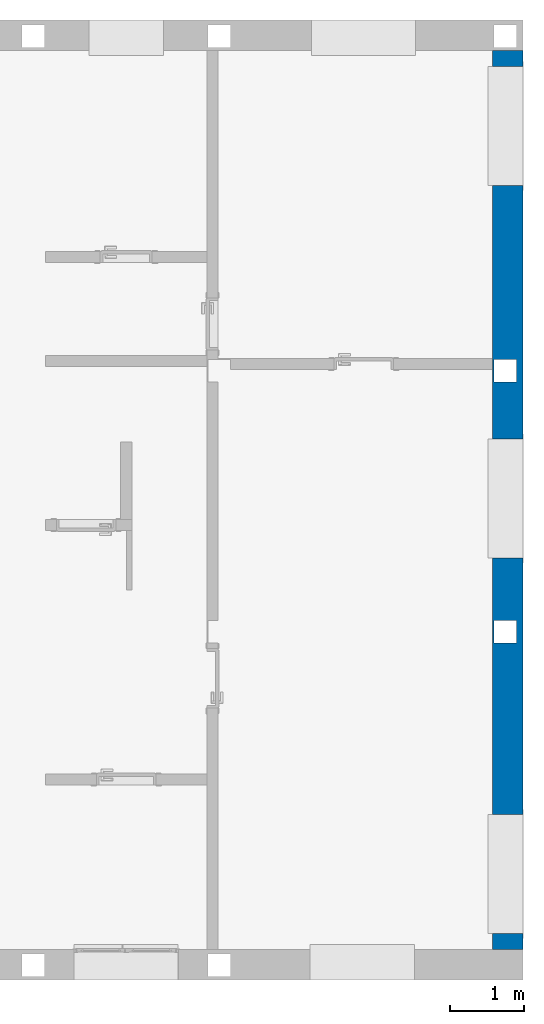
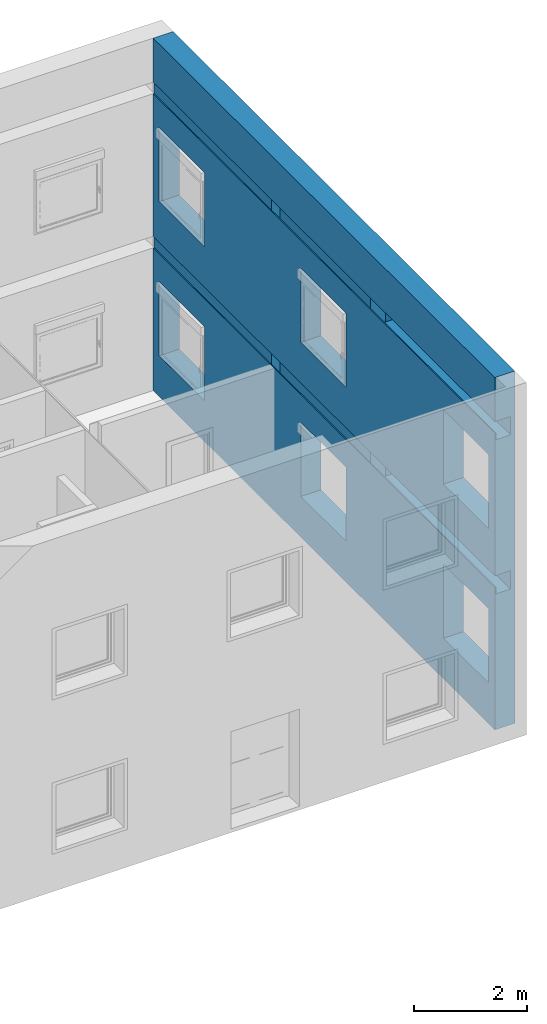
# One storey, part 9 of 11: 1 wall, 6 openings.
"""IFC2X3 building model written with IfcOpenShell, lengths in metres."""

from ifc_helpers import new_model, entity, si_unit, converted_unit, derived_unit, direction, frame, frame_2d, origin, place, context, subcontext, project, spatial, rectangle, extrude, faceted_brep, material, layer, layer_set, type_object, element, save


model = new_model("IFC2X3")

# Units and contexts
model_context = context("Model", 3, precision=1e-05, world=origin(), true_north=direction((6.12303176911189e-17, 1.0)))
context_of_model = context(None, 3, precision=1e-05, world=origin(), true_north=direction((6.12303176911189e-17, 1.0)))
body_context = subcontext(model_context, "Body", "Model", "MODEL_VIEW")
ifc_project = project(units=[si_unit("LENGTHUNIT", "METRE"), si_unit("AREAUNIT", "SQUARE_METRE"), si_unit("VOLUMEUNIT", "CUBIC_METRE"), converted_unit("PLANEANGLEUNIT", "DEGREE", entity("IfcRatioMeasure", 0.0174532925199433), si_unit("PLANEANGLEUNIT", "RADIAN"), dimensions=[0, 0, 0, 0, 0, 0, 0]), si_unit("MASSUNIT", "GRAM", prefix="KILO"), si_unit("TIMEUNIT", "SECOND"), si_unit("FREQUENCYUNIT", "HERTZ"), si_unit("THERMODYNAMICTEMPERATUREUNIT", "DEGREE_CELSIUS"), derived_unit("THERMALTRANSMITTANCEUNIT", [(si_unit("MASSUNIT", "GRAM", prefix="KILO"), 1), (si_unit("THERMODYNAMICTEMPERATUREUNIT", "KELVIN"), -1), (si_unit("TIMEUNIT", "SECOND"), -3)]), derived_unit("VOLUMETRICFLOWRATEUNIT", [(si_unit("LENGTHUNIT", "METRE"), 3), (si_unit("TIMEUNIT", "SECOND"), -1)]), si_unit("ELECTRICCURRENTUNIT", "AMPERE"), si_unit("ELECTRICVOLTAGEUNIT", "VOLT"), si_unit("POWERUNIT", "WATT"), si_unit("FORCEUNIT", "NEWTON", prefix="KILO"), si_unit("ILLUMINANCEUNIT", "LUX"), si_unit("LUMINOUSFLUXUNIT", "LUMEN"), si_unit("LUMINOUSINTENSITYUNIT", "CANDELA"), si_unit("PRESSUREUNIT", "PASCAL")], contexts=[model_context, context_of_model])

# Site, building, storey
site_placement = place(None, origin())
site = spatial("IfcSite", under=ifc_project, at=site_placement, Name="Default", CompositionType="ELEMENT")
building_placement = place(site_placement, origin())
building = spatial("IfcBuilding", under=site, at=building_placement, CompositionType="ELEMENT")
storey_placement = place(building_placement, frame((0.0, 0.0, 0.12)))
storey = spatial("IfcBuildingStorey", under=building, at=storey_placement, Name="01.ES.FORJADO PLANTA BAJA", CompositionType="ELEMENT", Elevation=0.12)

# Wall, openings
ifc_material_1 = material(Name="APL-Enfoscado de mortero de cemento de resistencia muy alta a la filtración (B3)")
ifc_layer_1 = layer(ifc_material_1, 0.015)
ifc_material_2 = material(Name="APL-Pared de obra de fabrica de ladrillo ceramico perforado, de e=11,5cm")
ifc_layer_2 = layer(ifc_material_2, 0.115)
ifc_material_3 = material(Name="APL-Camara de aire no ventilada")
ifc_layer_3 = layer(ifc_material_3, 0.075)
ifc_material_4 = material(Name="APL-Poliestireno expandido elastificado de e=0.037")
ifc_layer_4 = layer(ifc_material_4, 0.12)
ifc_material_5 = material(Name="APL-Tabique de obra de fabrica de ladrillo ceramico hueco doble, de e=7cm")
ifc_layer_5 = layer(ifc_material_5, 0.07)
ifc_material_6 = material(Name="APL-Guarnecido de yeso")
ifc_layer_6 = layer(ifc_material_6, 0.015)
ifc_layer_set = layer_set([ifc_layer_1, ifc_layer_2, ifc_layer_3, ifc_layer_4, ifc_layer_5, ifc_layer_6], Name="Muro básico:F3.2")
wall_type = type_object("IfcWallType", Name="Muro básico:F3.2", PredefinedType="STANDARD", material=ifc_layer_set)
wall_placement = place(storey_placement, frame((15.45, 12.9065177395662, 0.0), z_axis=(0.0, 0.0, 1.0), x_axis=(0.0, -1.0, 0.0)))
wall = element("IfcWall", 1, at=wall_placement, inside=storey, type_object=wall_type, Name="Muro básico:F3.2", ObjectType="Muro básico:F3.2", context=body_context, shape_type="Brep", body=[
    faceted_brep([(0.0, -0.204999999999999, 0.0), (4.14151773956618, -0.204999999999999, 0.0), (4.29151773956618, -0.204999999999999, 0.0), (12.0915177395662, -0.204999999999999, 0.0), (12.0915177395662, -0.204999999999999, 3.08), (4.29151773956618, -0.204999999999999, 3.08), (4.14151773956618, -0.204999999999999, 3.08), (0.0, -0.204999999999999, 3.08), (10.2765177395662, -0.204999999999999, 0.879999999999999), (10.2765177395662, -0.204999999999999, 2.48), (11.8765177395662, -0.204999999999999, 2.48), (11.8765177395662, -0.204999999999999, 0.879999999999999), (0.215000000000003, -0.204999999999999, 0.879999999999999), (0.215000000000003, -0.204999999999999, 2.48), (1.815, -0.204999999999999, 2.48), (1.815, -0.204999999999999, 0.879999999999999), (5.22645665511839, -0.204999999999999, 0.879999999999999), (5.22645665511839, -0.204999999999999, 2.48), (6.82645665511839, -0.204999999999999, 2.48), (6.82645665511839, -0.204999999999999, 0.879999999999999), (12.0915177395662, 0.205000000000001, 0.0), (0.0, 0.205000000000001, 0.0), (0.0, 0.205000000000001, 7.61), (12.0915177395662, 0.205000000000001, 7.61), (10.2765177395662, 0.205000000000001, 2.48), (10.2765177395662, 0.205000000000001, 0.879999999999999), (11.8765177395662, 0.205000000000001, 0.879999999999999), (11.8765177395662, 0.205000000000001, 2.48), (0.215000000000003, 0.205000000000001, 2.48), (0.215000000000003, 0.205000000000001, 0.879999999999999), (1.815, 0.205000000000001, 0.879999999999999), (1.815, 0.205000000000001, 2.48), (0.215000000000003, 0.205000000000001, 5.81), (0.215000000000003, 0.205000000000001, 4.21), (1.815, 0.205000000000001, 4.21), (1.815, 0.205000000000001, 5.81), (10.2765177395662, 0.205000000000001, 5.81), (10.2765177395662, 0.205000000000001, 4.21), (11.8765177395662, 0.205000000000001, 4.21), (11.8765177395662, 0.205000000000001, 5.81), (5.22645665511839, 0.205000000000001, 5.81), (5.22645665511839, 0.205000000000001, 4.21), (6.82645665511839, 0.205000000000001, 4.21), (6.82645665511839, 0.205000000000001, 5.81), (5.22645665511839, 0.205000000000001, 2.48), (5.22645665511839, 0.205000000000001, 0.879999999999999), (6.82645665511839, 0.205000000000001, 0.879999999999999), (6.82645665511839, 0.205000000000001, 2.48), (7.66645665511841, 0.114999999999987, 0.0), (7.66645665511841, -0.185000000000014, 0.0), (7.96645665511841, -0.185000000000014, 0.0), (7.96645665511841, 0.114999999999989, 0.0), (4.15651773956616, 0.114999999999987, 0.0), (4.15651773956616, -0.185000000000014, 0.0), (4.45651773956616, -0.185000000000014, 0.0), (4.45651773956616, 0.114999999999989, 0.0), (0.0, -0.204999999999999, 7.61), (12.0915177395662, -0.204999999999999, 7.61), (12.0915177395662, -0.204999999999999, 6.66), (12.0915177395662, -0.185000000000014, 6.66), (12.0915177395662, 0.114999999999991, 6.66), (12.0915177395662, 0.114999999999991, 6.26), (12.0915177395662, -0.185000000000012, 6.26), (12.0915177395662, -0.185000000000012, 6.41), (12.0915177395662, -0.204999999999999, 6.41), (12.0915177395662, -0.204999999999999, 3.33), (12.0915177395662, -0.185000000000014, 3.33), (12.0915177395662, 0.114999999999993, 3.33), (12.0915177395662, 0.114999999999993, 2.93), (12.0915177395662, -0.18500000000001, 2.93), (12.0915177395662, -0.18500000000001, 3.08), (0.0, -0.185000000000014, 3.08), (0.0, -0.185000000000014, 3.33), (0.0, -0.205000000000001, 3.33), (0.0, -0.204999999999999, 6.41), (0.0, -0.185000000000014, 6.41), (0.0, -0.185000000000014, 6.66), (0.0, -0.204999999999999, 6.66), (7.80145665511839, -0.204999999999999, 3.33), (7.65145665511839, -0.204999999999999, 3.33), (4.29151773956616, -0.204999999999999, 3.33), (4.14151773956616, -0.204999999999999, 3.33), (4.15651773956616, -0.185000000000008, 3.33), (4.45651773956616, -0.185000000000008, 3.33), (7.66645665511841, -0.185000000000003, 3.33), (7.94145665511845, -0.185000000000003, 3.33), (7.96645665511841, -0.185000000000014, 3.33), (7.96645665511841, 0.115, 3.33), (7.96645665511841, 0.115, 6.26), (7.96645665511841, 0.115, 6.66), (7.66645665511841, 0.115, 6.66), (7.66645665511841, 0.114999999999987, 3.33), (7.96645665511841, 0.115, 2.93), (7.96645665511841, -0.185000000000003, 2.93), (7.66645665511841, -0.185000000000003, 3.08), (4.15651773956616, -0.185000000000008, 6.66), (4.15651773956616, 0.114999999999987, 6.66), (4.45651773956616, 0.114999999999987, 6.66), (4.45651773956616, -0.185000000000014, 6.66), (7.66645665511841, -0.185000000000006, 6.66), (7.96645665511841, -0.185000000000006, 6.26), (7.66645665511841, -0.185000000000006, 6.41), (4.14151773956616, -0.204999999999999, 6.41), (4.29151773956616, -0.204999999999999, 6.41), (7.65145665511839, -0.204999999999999, 6.41), (7.80145665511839, -0.204999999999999, 6.41), (4.45651773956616, -0.18500000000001, 6.41), (4.15651773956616, -0.185000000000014, 6.41), (4.45651773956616, -0.185000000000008, 3.08), (4.15651773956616, -0.185000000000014, 3.08), (4.15651773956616, 0.114999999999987, 3.33), (4.45651773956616, 0.114999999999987, 3.33), (0.215000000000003, -0.204999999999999, 5.81), (0.215000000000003, -0.204999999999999, 4.21), (1.815, -0.204999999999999, 5.81), (1.815, -0.204999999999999, 4.21), (10.2765177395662, -0.204999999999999, 5.81), (10.2765177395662, -0.204999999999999, 4.21), (11.8765177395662, -0.204999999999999, 5.81), (11.8765177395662, -0.204999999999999, 4.21), (5.22645665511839, -0.204999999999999, 5.81), (5.22645665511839, -0.204999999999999, 4.21), (6.82645665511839, -0.204999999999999, 5.81), (6.82645665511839, -0.204999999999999, 4.21)], [[[0, 1, 2, 3, 4, 5, 6, 7], [8, 9, 10, 11], [12, 13, 14, 15], [16, 17, 18, 19]], [[20, 21, 22, 23], [24, 25, 26, 27], [28, 29, 30, 31], [32, 33, 34, 35], [36, 37, 38, 39], [40, 41, 42, 43], [44, 45, 46, 47]], [[3, 2, 1, 0, 21, 20], [48, 49, 50, 51], [52, 53, 54, 55]], [[56, 57, 23, 22]], [[3, 20, 23, 57, 58, 59, 60, 61, 62, 63, 64, 65, 66, 67, 68, 69, 70, 4]], [[56, 22, 21, 0, 7, 71, 72, 73, 74, 75, 76, 77]], [[65, 78, 79, 80, 81, 73, 72, 82, 83, 84, 85, 86, 87, 67, 66]], [[68, 67, 87, 88, 61, 60, 89, 90, 91, 48, 51, 92]], [[69, 68, 92, 93]], [[70, 69, 93, 50, 49, 94]], [[58, 77, 76, 95, 96, 97, 98, 99, 90, 89, 60, 59]], [[61, 88, 100, 62]], [[62, 100, 86, 85, 84, 101, 63]], [[74, 102, 103, 104, 105, 64, 63, 101, 106, 107, 75]], [[76, 75, 107, 95]], [[7, 6, 5, 4, 70, 94, 108, 109, 71]], [[72, 71, 109, 82]], [[96, 95, 107, 82, 109, 53, 52, 110]], [[82, 107, 106, 83]], [[98, 97, 111, 55, 54, 108, 83, 106]], [[55, 111, 97, 96, 110, 52]], [[90, 99, 101, 84, 94, 49, 48, 91]], [[88, 87, 86, 100]], [[50, 93, 92, 51]], [[53, 109, 108, 54]], [[9, 8, 25, 24]], [[10, 9, 24, 27]], [[11, 10, 27, 26]], [[8, 11, 26, 25]], [[13, 12, 29, 28]], [[14, 13, 28, 31]], [[15, 14, 31, 30]], [[12, 15, 30, 29]], [[112, 113, 33, 32]], [[114, 112, 32, 35]], [[115, 114, 35, 34]], [[113, 115, 34, 33]], [[116, 117, 37, 36]], [[118, 116, 36, 39]], [[119, 118, 39, 38]], [[117, 119, 38, 37]], [[120, 121, 41, 40]], [[122, 120, 40, 43]], [[123, 122, 43, 42]], [[121, 123, 42, 41]], [[17, 16, 45, 44]], [[18, 17, 44, 47]], [[19, 18, 47, 46]], [[16, 19, 46, 45]], [[84, 83, 108, 94]], [[98, 106, 101, 99]], [[64, 105, 104, 103, 102, 74, 73, 81, 80, 79, 78, 65], [113, 112, 114, 115], [117, 116, 118, 119], [121, 120, 122, 123]], [[57, 56, 77, 58]]]),
])
opening_1_placement = place(wall_placement, frame((10.2765177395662, -0.204999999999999, 0.879999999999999)))
element("IfcOpeningElement", 2, at=opening_1_placement, cuts=wall, Name="Ventana 1 hoja:VE1_160 x 160 cm:1", ObjectType="Opening", context=body_context, shape_type="SweptSolid", body=[
    extrude(rectangle(XDim=1.6, YDim=1.6, at=frame_2d((0.8, 0.8), x_axis=(1.0, 0.0))), frame((0.0, 0.0, 0.0), z_axis=(0.0, 1.0, 0.0), x_axis=(0.0, 0.0, 1.0)), (0.0, 0.0, 1.0), 0.41),
])
opening_2_placement = place(wall_placement, frame((0.215000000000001, -0.204999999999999, 0.879999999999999)))
element("IfcOpeningElement", 3, at=opening_2_placement, cuts=wall, Name="Ventana 1 hoja:VE1_160 x 160 cm:1", ObjectType="Opening", context=body_context, shape_type="SweptSolid", body=[
    extrude(rectangle(XDim=1.6, YDim=1.6, at=frame_2d((0.8, 0.8), x_axis=(1.0, 0.0))), frame((0.0, 0.0, 0.0), z_axis=(0.0, 1.0, 0.0), x_axis=(0.0, 0.0, 1.0)), (0.0, 0.0, 1.0), 0.41),
])
opening_3_placement = place(wall_placement, frame((10.2765177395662, -0.204999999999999, 4.21)))
element("IfcOpeningElement", 4, at=opening_3_placement, cuts=wall, Name="Ventana 1 hoja:VE1_160 x 160 cm:1", ObjectType="Opening", context=body_context, shape_type="SweptSolid", body=[
    extrude(rectangle(XDim=1.6, YDim=1.6, at=frame_2d((0.8, 0.8), x_axis=(1.0, 0.0))), frame((0.0, 0.0, 0.0), z_axis=(0.0, 1.0, 0.0), x_axis=(0.0, 0.0, 1.0)), (0.0, 0.0, 1.0), 0.41),
])
opening_4_placement = place(wall_placement, frame((0.215000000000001, -0.204999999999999, 4.21)))
element("IfcOpeningElement", 5, at=opening_4_placement, cuts=wall, Name="Ventana 1 hoja:VE1_160 x 160 cm:1", ObjectType="Opening", context=body_context, shape_type="SweptSolid", body=[
    extrude(rectangle(XDim=1.6, YDim=1.6, at=frame_2d((0.8, 0.8), x_axis=(1.0, 0.0))), frame((0.0, 0.0, 0.0), z_axis=(0.0, 1.0, 0.0), x_axis=(0.0, 0.0, 1.0)), (0.0, 0.0, 1.0), 0.41),
])
opening_5_placement = place(wall_placement, frame((5.22645665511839, -0.204999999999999, 4.21)))
element("IfcOpeningElement", 6, at=opening_5_placement, cuts=wall, Name="Ventana 1 hoja:VE1_160 x 160 cm:1", ObjectType="Opening", context=body_context, shape_type="SweptSolid", body=[
    extrude(rectangle(XDim=1.6, YDim=1.6, at=frame_2d((0.8, 0.8), x_axis=(1.0, 0.0))), frame((0.0, 0.0, 0.0), z_axis=(0.0, 1.0, 0.0), x_axis=(0.0, 0.0, 1.0)), (0.0, 0.0, 1.0), 0.41),
])
opening_6_placement = place(wall_placement, frame((5.22645665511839, -0.204999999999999, 0.879999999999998)))
element("IfcOpeningElement", 7, at=opening_6_placement, cuts=wall, Name="Ventana 1 hoja:VE1_160 x 160 cm:1", ObjectType="Opening", context=body_context, shape_type="SweptSolid", body=[
    extrude(rectangle(XDim=1.6, YDim=1.6, at=frame_2d((0.8, 0.8), x_axis=(1.0, 0.0))), frame((0.0, 0.0, 0.0), z_axis=(0.0, 1.0, 0.0), x_axis=(0.0, 0.0, 1.0)), (0.0, 0.0, 1.0), 0.41),
])

save(model, "model.ifc")
